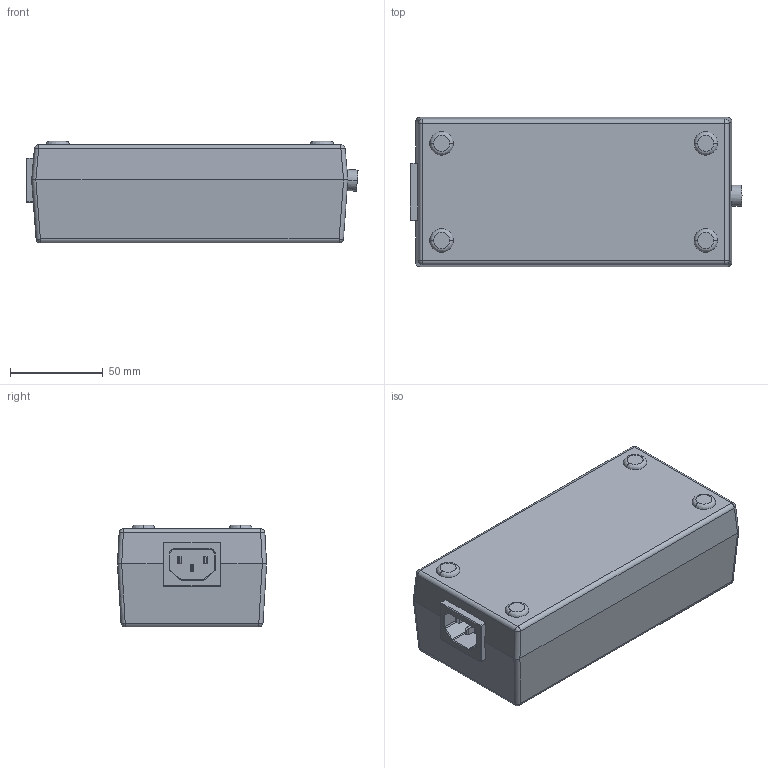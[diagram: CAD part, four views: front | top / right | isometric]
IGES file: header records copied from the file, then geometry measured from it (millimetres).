
Start section:  PTC IGES file: cu_power_supply_ps3.igs
Global section: file name: cu_power_supply_ps3.igs; native system: Pro/ENGINEER by Parametric Technology Corporation; preprocessor: 2006080; author: jpearson; organization: Unknown; date: 070817.130535; units: inch
Bounding box: 178.72 x 80.26 x 54.86 mm (x, y, z)
Surface area: 53066.2 mm2 (no closed solid volume)
Topology: 0 solids, 0 shells, 118 faces, 508 edges, 508 vertices
Faces by surface type: revolution 64, bspline 54
